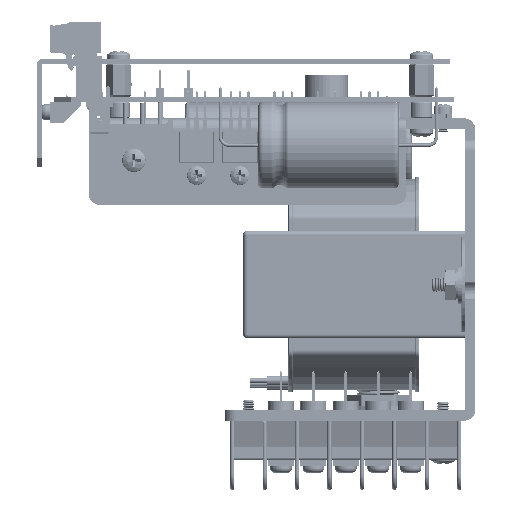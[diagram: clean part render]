
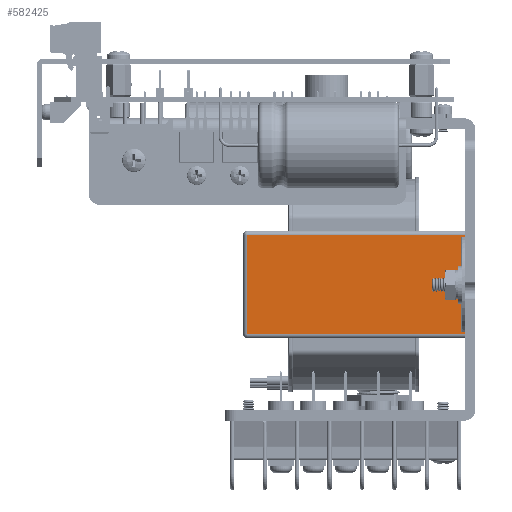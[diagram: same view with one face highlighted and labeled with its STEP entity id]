
A CAD part, left-side view. The second image highlights one B-rep face of the part: STEP entity #582425.
In plain terms, the highlighted planar face has unit normal (-1, 0, 0).
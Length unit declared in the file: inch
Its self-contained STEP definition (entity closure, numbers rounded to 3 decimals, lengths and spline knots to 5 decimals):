
#3273 = EDGE_CURVE ( 'NONE', #632509, #632514, #149860, .T. ) ;
#3276 = EDGE_CURVE ( 'NONE', #632504, #632509, #149861, .T. ) ;
#3278 = EDGE_CURVE ( 'NONE', #632514, #632517, #149863, .T. ) ;
#3281 = EDGE_CURVE ( 'NONE', #632517, #632523, #149865, .T. ) ;
#3283 = EDGE_CURVE ( 'NONE', #632523, #632527, #149867, .T. ) ;
#3286 = EDGE_CURVE ( 'NONE', #632527, #632530, #149869, .T. ) ;
#3288 = EDGE_CURVE ( 'NONE', #632530, #632536, #149870, .T. ) ;
#3291 = EDGE_CURVE ( 'NONE', #632504, #632536, #149873, .T. ) ;
#14063 = ORIENTED_EDGE ( 'NONE', *, *, #3276, .T. ) ;
#14067 = ORIENTED_EDGE ( 'NONE', *, *, #3278, .T. ) ;
#14070 = ORIENTED_EDGE ( 'NONE', *, *, #3273, .T. ) ;
#14073 = ORIENTED_EDGE ( 'NONE', *, *, #3281, .T. ) ;
#14076 = ORIENTED_EDGE ( 'NONE', *, *, #3283, .T. ) ;
#14079 = ORIENTED_EDGE ( 'NONE', *, *, #3286, .T. ) ;
#14082 = ORIENTED_EDGE ( 'NONE', *, *, #3288, .T. ) ;
#14086 = ORIENTED_EDGE ( 'NONE', *, *, #3291, .F. ) ;
#50882 = CARTESIAN_POINT ( 'NONE',  ( 0., 0.043, -1.17138 ) ) ;
#50886 = CARTESIAN_POINT ( 'NONE',  ( 0., 0.043, -0.07162 ) ) ;
#50889 = CARTESIAN_POINT ( 'NONE',  ( 0., 0., -0.07162 ) ) ;
#50894 = CARTESIAN_POINT ( 'NONE',  ( 0., 0., -0.05 ) ) ;
#50897 = CARTESIAN_POINT ( 'NONE',  ( 0., 2.513, -0.05 ) ) ;
#50901 = CARTESIAN_POINT ( 'NONE',  ( 0., 2.513, -1.193 ) ) ;
#50906 = CARTESIAN_POINT ( 'NONE',  ( 0., 0., -1.193 ) ) ;
#50909 = CARTESIAN_POINT ( 'NONE',  ( 0., 0., -1.17138 ) ) ;
#149860 = LINE ( 'NONE', #154595, #156371 ) ;
#149861 = LINE ( 'NONE', #154606, #156372 ) ;
#149863 = LINE ( 'NONE', #154612, #156373 ) ;
#149865 = LINE ( 'NONE', #154618, #156374 ) ;
#149867 = LINE ( 'NONE', #154625, #156375 ) ;
#149869 = LINE ( 'NONE', #154631, #156377 ) ;
#149870 = LINE ( 'NONE', #154639, #156381 ) ;
#149873 = LINE ( 'NONE', #154649, #156382 ) ;
#154595 = CARTESIAN_POINT ( 'NONE',  ( 0., 0.028, -0.07162 ) ) ;
#154599 = DIRECTION ( 'NONE',  ( 0., -1., 0. ) ) ;
#154606 = CARTESIAN_POINT ( 'NONE',  ( 0., 0.043, -1.243 ) ) ;
#154609 = DIRECTION ( 'NONE',  ( 0., 0., 1. ) ) ;
#154612 = CARTESIAN_POINT ( 'NONE',  ( 0., 0., -1.243 ) ) ;
#154615 = DIRECTION ( 'NONE',  ( 0., 0., 1. ) ) ;
#154618 = CARTESIAN_POINT ( 'NONE',  ( 0., 2.563, -0.05 ) ) ;
#154620 = DIRECTION ( 'NONE',  ( 0., 1., 0. ) ) ;
#154625 = CARTESIAN_POINT ( 'NONE',  ( 0., 2.513, -1.243 ) ) ;
#154627 = DIRECTION ( 'NONE',  ( 0., 0., -1. ) ) ;
#154631 = CARTESIAN_POINT ( 'NONE',  ( 0., 0., -1.193 ) ) ;
#154635 = DIRECTION ( 'NONE',  ( 0., -1., 0. ) ) ;
#154639 = CARTESIAN_POINT ( 'NONE',  ( 0., 0., -1.243 ) ) ;
#154642 = DIRECTION ( 'NONE',  ( 0., 0., 1. ) ) ;
#154649 = CARTESIAN_POINT ( 'NONE',  ( 0., 0.028, -1.17138 ) ) ;
#154654 = DIRECTION ( 'NONE',  ( 0., -1., 0. ) ) ;
#156371 = VECTOR ( 'NONE', #154599, 39.37008 ) ;
#156372 = VECTOR ( 'NONE', #154609, 39.37008 ) ;
#156373 = VECTOR ( 'NONE', #154615, 39.37008 ) ;
#156374 = VECTOR ( 'NONE', #154620, 39.37008 ) ;
#156375 = VECTOR ( 'NONE', #154627, 39.37008 ) ;
#156377 = VECTOR ( 'NONE', #154635, 39.37008 ) ;
#156381 = VECTOR ( 'NONE', #154642, 39.37008 ) ;
#156382 = VECTOR ( 'NONE', #154654, 39.37008 ) ;
#191811 = AXIS2_PLACEMENT_3D ( 'NONE', #219844, #219848, #219850 ) ;
#219841 = PLANE ( 'NONE',  #191811 ) ;
#219844 = CARTESIAN_POINT ( 'NONE',  ( 0., 0., -1.243 ) ) ;
#219848 = DIRECTION ( 'NONE',  ( -1., 0., 0. ) ) ;
#219850 = DIRECTION ( 'NONE',  ( 0., 0., 1. ) ) ;
#222276 = FACE_OUTER_BOUND ( 'NONE', #541352, .T. ) ;
#541352 = EDGE_LOOP ( 'NONE', ( #14063, #14070, #14067, #14073, #14076, #14079, #14082, #14086 ) ) ;
#582425 = ADVANCED_FACE ( 'NONE', ( #222276 ), #219841, .T. ) ;
#632504 = VERTEX_POINT ( 'NONE', #50882 ) ;
#632509 = VERTEX_POINT ( 'NONE', #50886 ) ;
#632514 = VERTEX_POINT ( 'NONE', #50889 ) ;
#632517 = VERTEX_POINT ( 'NONE', #50894 ) ;
#632523 = VERTEX_POINT ( 'NONE', #50897 ) ;
#632527 = VERTEX_POINT ( 'NONE', #50901 ) ;
#632530 = VERTEX_POINT ( 'NONE', #50906 ) ;
#632536 = VERTEX_POINT ( 'NONE', #50909 ) ;
